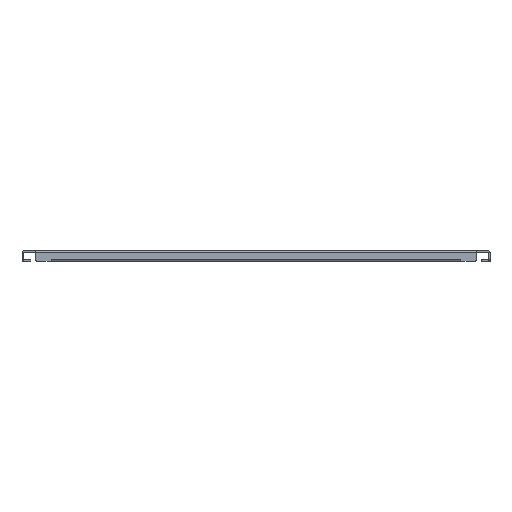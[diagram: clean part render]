
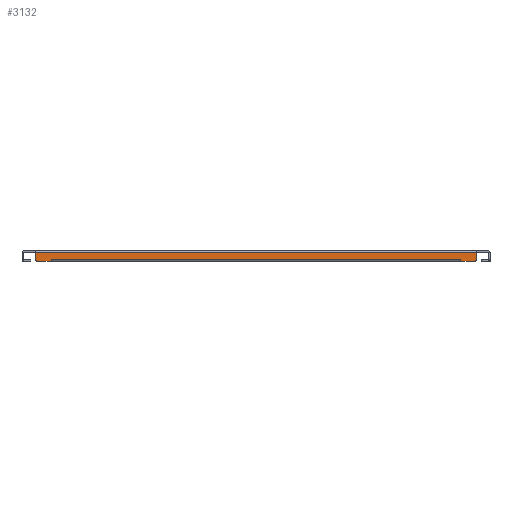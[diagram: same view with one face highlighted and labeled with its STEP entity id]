
A CAD part, front view. The second image highlights one B-rep face of the part: STEP entity #3132.
In plain terms, the highlighted planar face has unit normal (0, -1, 0).
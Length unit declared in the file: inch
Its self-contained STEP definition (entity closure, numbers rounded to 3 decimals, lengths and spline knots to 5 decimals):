
#82=PLANE('',#3407);
#200=FACE_OUTER_BOUND('',#390,.T.);
#390=EDGE_LOOP('',(#2467,#2468,#2469,#2470,#2471,#2472,#2473,#2474,#2475,
#2476,#2477,#2478,#2479,#2480));
#606=LINE('',#4836,#938);
#626=LINE('',#4904,#958);
#644=LINE('',#4965,#976);
#647=LINE('',#4970,#979);
#648=LINE('',#4974,#980);
#649=LINE('',#4976,#981);
#650=LINE('',#4978,#982);
#651=LINE('',#4980,#983);
#652=LINE('',#4982,#984);
#653=LINE('',#4984,#985);
#654=LINE('',#4986,#986);
#655=LINE('',#4987,#987);
#938=VECTOR('',#3897,0.3937);
#958=VECTOR('',#3951,0.3937);
#976=VECTOR('',#4001,0.3937);
#979=VECTOR('',#4006,0.3937);
#980=VECTOR('',#4009,0.3937);
#981=VECTOR('',#4010,0.3937);
#982=VECTOR('',#4011,0.3937);
#983=VECTOR('',#4012,0.3937);
#984=VECTOR('',#4013,0.3937);
#985=VECTOR('',#4014,0.3937);
#986=VECTOR('',#4015,0.3937);
#987=VECTOR('',#4016,0.3937);
#1233=CIRCLE('',#3405,0.125);
#1234=CIRCLE('',#3408,0.125);
#1409=VERTEX_POINT('',#4833);
#1410=VERTEX_POINT('',#4835);
#1440=VERTEX_POINT('',#4901);
#1441=VERTEX_POINT('',#4903);
#1467=VERTEX_POINT('',#4960);
#1468=VERTEX_POINT('',#4964);
#1470=VERTEX_POINT('',#4971);
#1471=VERTEX_POINT('',#4973);
#1472=VERTEX_POINT('',#4975);
#1473=VERTEX_POINT('',#4977);
#1474=VERTEX_POINT('',#4979);
#1475=VERTEX_POINT('',#4981);
#1476=VERTEX_POINT('',#4983);
#1477=VERTEX_POINT('',#4985);
#1772=EDGE_CURVE('',#1410,#1409,#606,.T.);
#1806=EDGE_CURVE('',#1441,#1440,#626,.T.);
#1835=EDGE_CURVE('',#1441,#1467,#1233,.T.);
#1837=EDGE_CURVE('',#1468,#1467,#644,.T.);
#1840=EDGE_CURVE('',#1410,#1440,#647,.T.);
#1841=EDGE_CURVE('',#1470,#1409,#1234,.T.);
#1842=EDGE_CURVE('',#1470,#1471,#648,.T.);
#1843=EDGE_CURVE('',#1471,#1472,#649,.T.);
#1844=EDGE_CURVE('',#1472,#1473,#650,.T.);
#1845=EDGE_CURVE('',#1473,#1474,#651,.T.);
#1846=EDGE_CURVE('',#1474,#1475,#652,.T.);
#1847=EDGE_CURVE('',#1475,#1476,#653,.T.);
#1848=EDGE_CURVE('',#1476,#1477,#654,.T.);
#1849=EDGE_CURVE('',#1477,#1468,#655,.T.);
#2467=ORIENTED_EDGE('',*,*,#1835,.F.);
#2468=ORIENTED_EDGE('',*,*,#1806,.T.);
#2469=ORIENTED_EDGE('',*,*,#1840,.F.);
#2470=ORIENTED_EDGE('',*,*,#1772,.T.);
#2471=ORIENTED_EDGE('',*,*,#1841,.F.);
#2472=ORIENTED_EDGE('',*,*,#1842,.T.);
#2473=ORIENTED_EDGE('',*,*,#1843,.T.);
#2474=ORIENTED_EDGE('',*,*,#1844,.T.);
#2475=ORIENTED_EDGE('',*,*,#1845,.T.);
#2476=ORIENTED_EDGE('',*,*,#1846,.T.);
#2477=ORIENTED_EDGE('',*,*,#1847,.T.);
#2478=ORIENTED_EDGE('',*,*,#1848,.T.);
#2479=ORIENTED_EDGE('',*,*,#1849,.T.);
#2480=ORIENTED_EDGE('',*,*,#1837,.T.);
#3132=ADVANCED_FACE('',(#200),#82,.F.);
#3405=AXIS2_PLACEMENT_3D('',#4961,#3996,#3997);
#3407=AXIS2_PLACEMENT_3D('',#4969,#4004,#4005);
#3408=AXIS2_PLACEMENT_3D('',#4972,#4007,#4008);
#3897=DIRECTION('',(0.,0.,-1.));
#3951=DIRECTION('',(0.,0.,1.));
#3996=DIRECTION('center_axis',(0.,1.,0.));
#3997=DIRECTION('ref_axis',(0.707,0.,-0.707));
#4001=DIRECTION('',(1.,0.,0.));
#4004=DIRECTION('center_axis',(0.,1.,0.));
#4005=DIRECTION('ref_axis',(0.,0.,1.));
#4006=DIRECTION('',(1.,0.,0.));
#4007=DIRECTION('center_axis',(0.,1.,0.));
#4008=DIRECTION('ref_axis',(-0.707,0.,-0.707));
#4009=DIRECTION('',(1.,0.,0.));
#4010=DIRECTION('',(0.,0.,1.));
#4011=DIRECTION('',(1.,0.,0.));
#4012=DIRECTION('',(0.,0.,-1.));
#4013=DIRECTION('',(1.,0.,0.));
#4014=DIRECTION('',(0.,0.,1.));
#4015=DIRECTION('',(1.,0.,0.));
#4016=DIRECTION('',(0.,0.,-1.));
#4833=CARTESIAN_POINT('',(-10.4375,-13.375,-0.319));
#4835=CARTESIAN_POINT('',(-10.4375,-13.375,-0.031));
#4836=CARTESIAN_POINT('',(-10.4375,-13.375,0.068));
#4901=CARTESIAN_POINT('',(10.4375,-13.375,-0.031));
#4903=CARTESIAN_POINT('',(10.4375,-13.375,-0.319));
#4904=CARTESIAN_POINT('',(10.4375,-13.375,-0.444));
#4960=CARTESIAN_POINT('',(10.3125,-13.375,-0.444));
#4961=CARTESIAN_POINT('Origin',(10.3125,-13.375,-0.319));
#4964=CARTESIAN_POINT('',(9.6877,-13.375,-0.444));
#4965=CARTESIAN_POINT('',(-10.4375,-13.375,-0.444));
#4969=CARTESIAN_POINT('Origin',(0.,-13.375,-0.188));
#4970=CARTESIAN_POINT('',(10.4375,-13.375,-0.031));
#4971=CARTESIAN_POINT('',(-10.3125,-13.375,-0.444));
#4972=CARTESIAN_POINT('Origin',(-10.3125,-13.375,-0.319));
#4973=CARTESIAN_POINT('',(-9.6877,-13.375,-0.444));
#4974=CARTESIAN_POINT('',(-10.4375,-13.375,-0.444));
#4975=CARTESIAN_POINT('',(-9.6877,-13.375,-0.3448));
#4976=CARTESIAN_POINT('',(-9.6877,-13.375,-0.316));
#4977=CARTESIAN_POINT('',(-9.6875,-13.375,-0.3448));
#4978=CARTESIAN_POINT('',(-4.84385,-13.375,-0.3448));
#4979=CARTESIAN_POINT('',(-9.6875,-13.375,-0.345));
#4980=CARTESIAN_POINT('',(-9.6875,-13.375,-0.2664));
#4981=CARTESIAN_POINT('',(9.6875,-13.375,-0.345));
#4982=CARTESIAN_POINT('',(4.84375,-13.375,-0.345));
#4983=CARTESIAN_POINT('',(9.6875,-13.375,-0.3448));
#4984=CARTESIAN_POINT('',(9.6875,-13.375,-0.316));
#4985=CARTESIAN_POINT('',(9.6877,-13.375,-0.3448));
#4986=CARTESIAN_POINT('',(4.84375,-13.375,-0.3448));
#4987=CARTESIAN_POINT('',(9.6877,-13.375,-0.2664));
